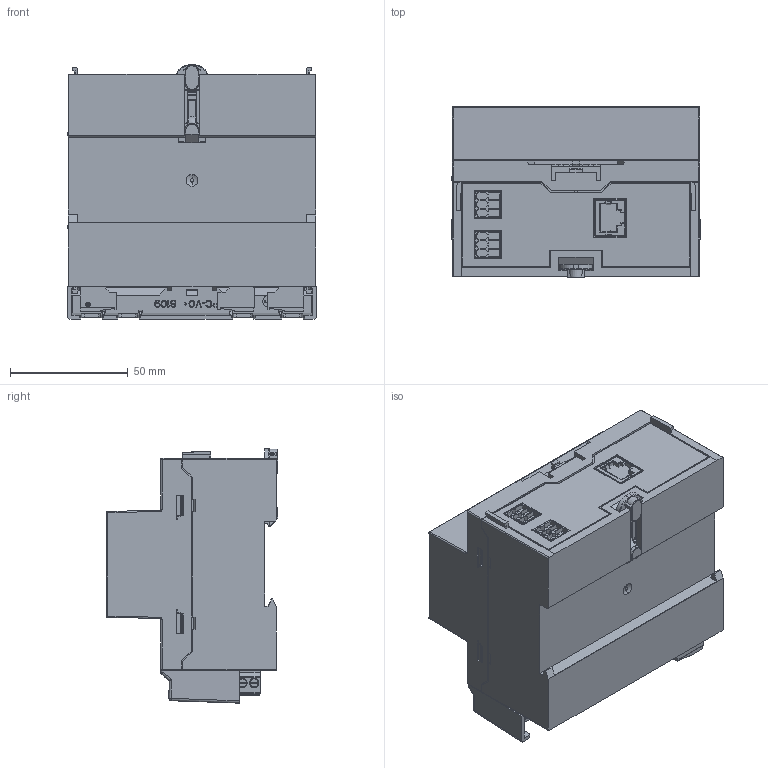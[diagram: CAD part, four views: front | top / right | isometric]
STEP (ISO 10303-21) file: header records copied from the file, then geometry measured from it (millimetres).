
FILE_DESCRIPTION((''),'2;1');
FILE_NAME('D420','2024-03-25T12:18:48',('lesquembri'),(''),'CREO PARAMETRIC BY PTC INC, 2018260','CREO PARAMETRIC BY PTC INC, 2018260','');
FILE_SCHEMA(('AUTOMOTIVE_DESIGN { 1 0 10303 214 1 1 1 1 }'));
Products named in the file (1): D420
Bounding box: 105.49 x 72.83 x 107.83 mm (x, y, z)
Volume: 542037.8 mm3; surface area: 99084.7 mm2
Topology: 2 solids, 14 shells, 4560 faces, 13276 edges, 8754 vertices
Faces by surface type: plane 3443, cylinder 757, extrusion 132, cone 90, bspline 72, torus 56, sphere 10
Entity records: 173507 total; most frequent: CARTESIAN_POINT 38465, ORIENTED_EDGE 26536, DIRECTION 22388, EDGE_CURVE 13268, VECTOR 10546, LINE 10414, VERTEX_POINT 8754, AXIS2_PLACEMENT_3D 5921
